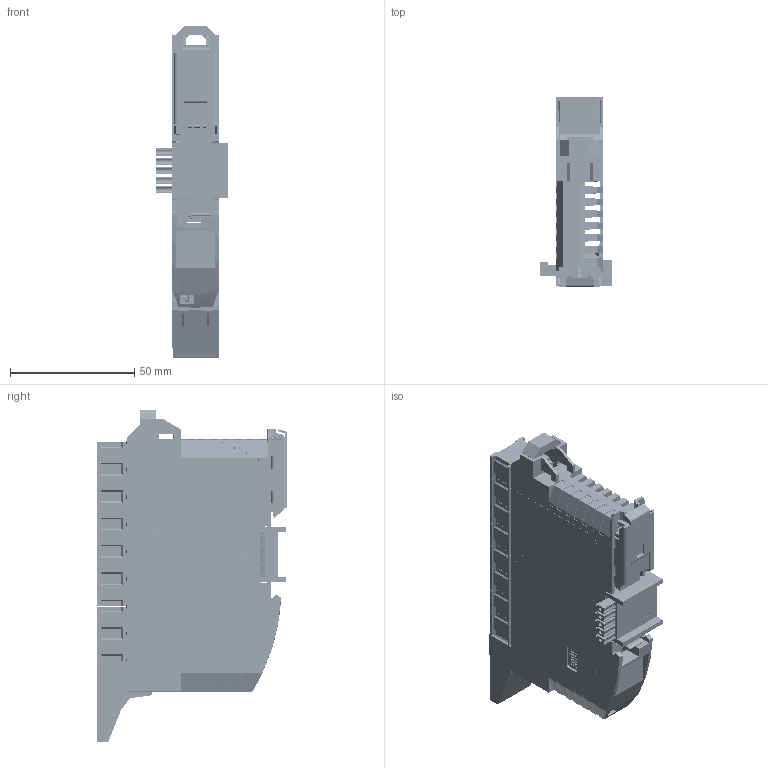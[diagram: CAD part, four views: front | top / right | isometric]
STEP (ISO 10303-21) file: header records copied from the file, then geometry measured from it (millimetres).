
FILE_DESCRIPTION(/* description */ (''),/* implementation_level */ '2;1');
FILE_NAME(/* name */ 'C:/Temp/STEP/FdxCompact_TRIAC-8-C.step',/* time_stamp */ '2020-04-03T13:43:25+03:00',/* author */ (''),/* organization */ (''),/* preprocessor_version */ 'ST-DEVELOPER v18',/* originating_system */ 'Autodesk Translation Framework v8.12.0.6',/* authorisation */ '');
FILE_SCHEMA (('AUTOMOTIVE_DESIGN { 1 0 10303 214 3 1 1 }'));
Products named in the file (1): FdxCompact_TRIAC-8-C
Bounding box: 29.2 x 76.5 x 133.55 mm (x, y, z)
Volume: 51437.7 mm3; surface area: 73860.1 mm2
Topology: 362 solids, 367 shells, 8399 faces, 22417 edges, 14908 vertices
Faces by surface type: plane 6430, bspline 944, cylinder 864, cone 96, sphere 33, torus 32
Full cylindrical faces by diameter (mm): 0.62 x1, 1 x19, 1.2 x32, 1.3 x32, 1.6 x10
Entity records: 401382 total; most frequent: CARTESIAN_POINT 187873, ORIENTED_EDGE 44728, DIRECTION 37196, EDGE_CURVE 22385, LINE 17998, VECTOR 17998, VERTEX_POINT 14908, AXIS2_PLACEMENT_3D 9599
